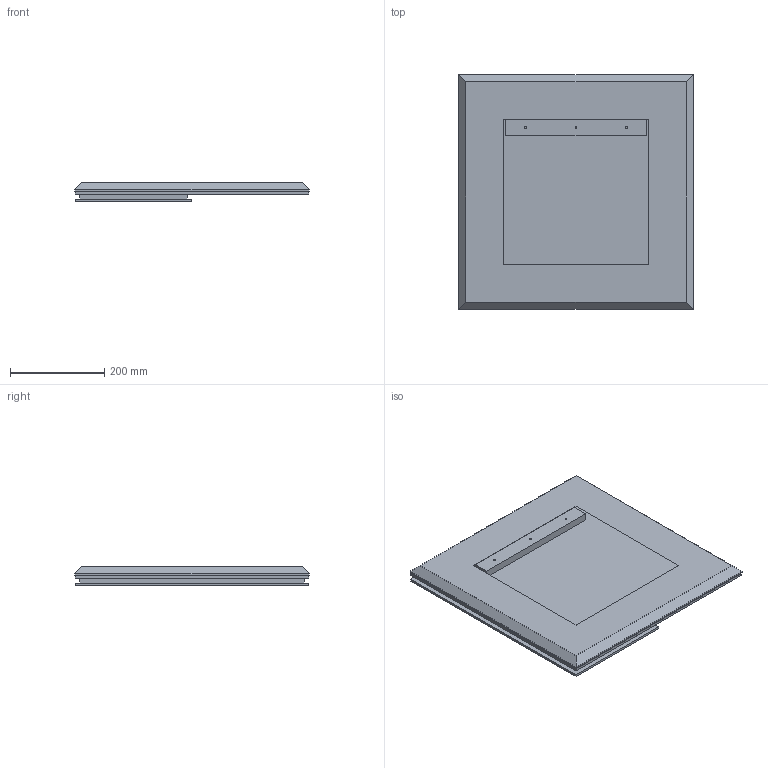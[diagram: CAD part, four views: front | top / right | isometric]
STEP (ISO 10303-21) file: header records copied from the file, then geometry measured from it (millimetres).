
FILE_DESCRIPTION (( 'STEP AP214' ), '1' );
FILE_NAME ('Dainelli_V2_Rettangolare.STEP', '2026-03-30T09:32:53', ( '' ), ( '' ), 'SwSTEP 2.0', 'SolidWorks 2025', '' );
FILE_SCHEMA (( 'AUTOMOTIVE_DESIGN' ));
Length unit declared in the file: millimetre
Products named in the file (7): Dainelli_RETTANGOLARE_Dainelli_VETRO_RETTANGOLARE; Dainelli_RETTANGOLARE_Dainelli_MDF_RETTANGOLARE; Dainelli_CRISTALLO_50 (49.6); Dainelli_CORNICE_50; Dainelli_Assieme_Pezzo_RETTANGOLARE_50 (Pezzo da 50); Dainelli_V2_Rettangolare; Dainelli_DISTANZIALE_50
Assembly tree (6 placements, depth 3):
  Dainelli_V2_Rettangolare
    Dainelli_CORNICE_50
    Dainelli_CRISTALLO_50 (49.6)
    Dainelli_DISTANZIALE_50
    Dainelli_Assieme_Pezzo_RETTANGOLARE_50 (Pezzo da 50)
      Dainelli_RETTANGOLARE_Dainelli_MDF_RETTANGOLARE
      Dainelli_RETTANGOLARE_Dainelli_VETRO_RETTANGOLARE
Bounding box: 498 x 498 x 40 mm (x, y, z)
Volume: 5834607.5 mm3; surface area: 1363488.7 mm2
Topology: 5 solids, 5 shells, 44 faces, 98 edges, 64 vertices
Faces by surface type: plane 38, cylinder 6
Entity records: 1431 total; most frequent: DIRECTION 218, CARTESIAN_POINT 216, ORIENTED_EDGE 196, EDGE_CURVE 98, VECTOR 86, LINE 86, AXIS2_PLACEMENT_3D 66, VERTEX_POINT 64
